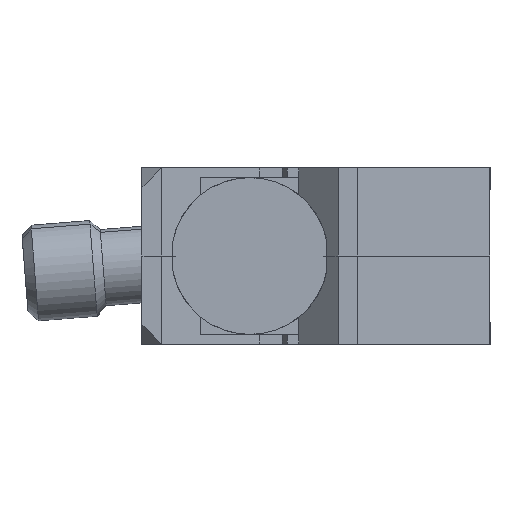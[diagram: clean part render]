
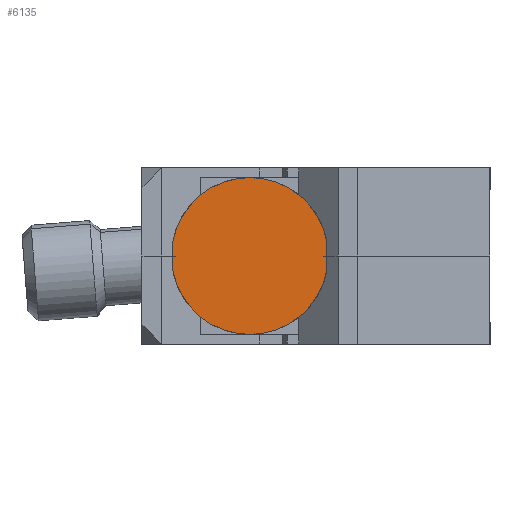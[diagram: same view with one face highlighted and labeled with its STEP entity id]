
A CAD part, left-side view. The second image highlights one B-rep face of the part: STEP entity #6135.
In plain terms, the highlighted planar face has unit normal (-1, 0, 0) as drawn and (0, 0, -1) by its records, which use the part's own axes.
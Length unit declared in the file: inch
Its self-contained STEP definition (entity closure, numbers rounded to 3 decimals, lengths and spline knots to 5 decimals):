
#211 = DIRECTION ( 'NONE',  ( 1., 0., 0. ) ) ;
#1340 = AXIS2_PLACEMENT_3D ( 'NONE', #2518, #8004, #211 ) ;
#1881 = ORIENTED_EDGE ( 'NONE', *, *, #9946, .T. ) ;
#1896 = CARTESIAN_POINT ( 'NONE',  ( -0.30939, -0.05896, -0.11811 ) ) ;
#2518 = CARTESIAN_POINT ( 'NONE',  ( 0., 0., -0.11811 ) ) ;
#2523 = VERTEX_POINT ( 'NONE', #1896 ) ;
#2875 = CARTESIAN_POINT ( 'NONE',  ( -0.30939, -0.31496, -0.11811 ) ) ;
#2902 = DIRECTION ( 'NONE',  ( 1., 0., 0. ) ) ;
#3067 = CIRCLE ( 'NONE', #5049, 0.31496 ) ;
#3311 = VECTOR ( 'NONE', #7434, 39.37008 ) ;
#3814 = ORIENTED_EDGE ( 'NONE', *, *, #6627, .F. ) ;
#4121 = FACE_OUTER_BOUND ( 'NONE', #4185, .T. ) ;
#4185 = EDGE_LOOP ( 'NONE', ( #3814, #1881, #6803, #7702 ) ) ;
#4400 = DIRECTION ( 'NONE',  ( 0., 0., 1. ) ) ;
#4525 = CARTESIAN_POINT ( 'NONE',  ( 0.30939, -0.31496, -0.11811 ) ) ;
#4995 = DIRECTION ( 'NONE',  ( 0., 0., 1. ) ) ;
#5049 = AXIS2_PLACEMENT_3D ( 'NONE', #9322, #4400, #2902 ) ;
#5360 = LINE ( 'NONE', #4525, #7110 ) ;
#5389 = AXIS2_PLACEMENT_3D ( 'NONE', #6655, #4995, #8153 ) ;
#5595 = CARTESIAN_POINT ( 'NONE',  ( 0.30939, 0.05896, -0.11811 ) ) ;
#5790 = CIRCLE ( 'NONE', #1340, 0.31496 ) ;
#6135 = ADVANCED_FACE ( 'NONE', ( #4121 ), #8936, .F. ) ;
#6627 = EDGE_CURVE ( 'NONE', #2523, #7359, #3067, .T. ) ;
#6655 = CARTESIAN_POINT ( 'NONE',  ( 0., 0., -0.11811 ) ) ;
#6803 = ORIENTED_EDGE ( 'NONE', *, *, #9770, .F. ) ;
#7110 = VECTOR ( 'NONE', #7686, 39.37008 ) ;
#7346 = CARTESIAN_POINT ( 'NONE',  ( -0.30939, 0.05896, -0.11811 ) ) ;
#7359 = VERTEX_POINT ( 'NONE', #10126 ) ;
#7434 = DIRECTION ( 'NONE',  ( 0., 1., 0. ) ) ;
#7565 = VERTEX_POINT ( 'NONE', #5595 ) ;
#7582 = VERTEX_POINT ( 'NONE', #7346 ) ;
#7686 = DIRECTION ( 'NONE',  ( 0., 1., 0. ) ) ;
#7702 = ORIENTED_EDGE ( 'NONE', *, *, #8762, .F. ) ;
#8004 = DIRECTION ( 'NONE',  ( 0., 0., 1. ) ) ;
#8153 = DIRECTION ( 'NONE',  ( 1., 0., 0. ) ) ;
#8762 = EDGE_CURVE ( 'NONE', #7359, #7565, #5360, .T. ) ;
#8936 = PLANE ( 'NONE',  #5389 ) ;
#9322 = CARTESIAN_POINT ( 'NONE',  ( 0., 0., -0.11811 ) ) ;
#9742 = LINE ( 'NONE', #2875, #3311 ) ;
#9770 = EDGE_CURVE ( 'NONE', #7565, #7582, #5790, .T. ) ;
#9946 = EDGE_CURVE ( 'NONE', #2523, #7582, #9742, .T. ) ;
#10126 = CARTESIAN_POINT ( 'NONE',  ( 0.30939, -0.05896, -0.11811 ) ) ;
